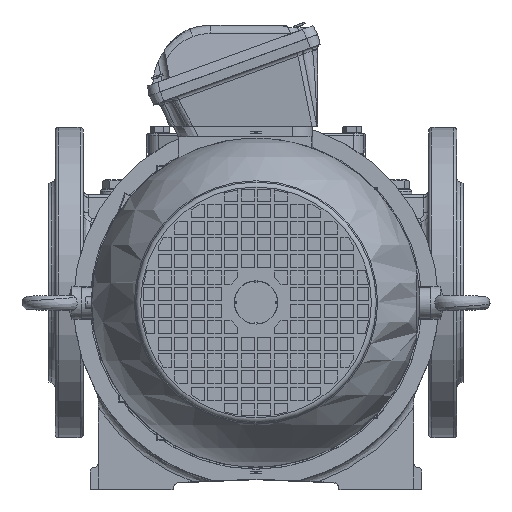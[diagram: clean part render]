
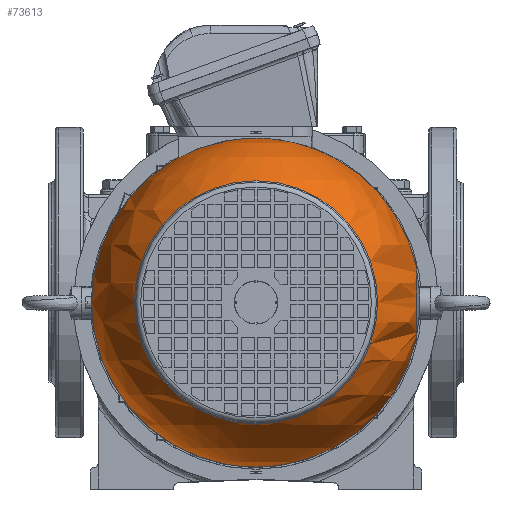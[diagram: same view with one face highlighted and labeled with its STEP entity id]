
A CAD part, top view. The second image highlights one B-rep face of the part: STEP entity #73613.
In plain terms, the highlighted spherical face has radius 99.054 mm.
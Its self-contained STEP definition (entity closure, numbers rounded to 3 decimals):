
#983=SPHERICAL_SURFACE('',#78412,99.054);
#8956=FACE_BOUND('',#15134,.T.);
#10728=FACE_OUTER_BOUND('',#15133,.T.);
#15133=EDGE_LOOP('',(#56707,#56708,#56709,#56710));
#15134=EDGE_LOOP('',(#56711,#56712));
#28968=CIRCLE('',#77082,99.05);
#28970=CIRCLE('',#77084,99.05);
#28971=CIRCLE('',#77085,99.05);
#29125=CIRCLE('',#77808,21.153);
#29146=CIRCLE('',#78410,73.309);
#29147=CIRCLE('',#78411,73.309);
#32205=VERTEX_POINT('',#114586);
#32206=VERTEX_POINT('',#114587);
#32209=VERTEX_POINT('',#114596);
#32210=VERTEX_POINT('',#114601);
#34023=VERTEX_POINT('',#121621);
#34024=VERTEX_POINT('',#121623);
#39375=EDGE_CURVE('',#32205,#32206,#28968,.T.);
#39379=EDGE_CURVE('',#32210,#32209,#28970,.T.);
#39380=EDGE_CURVE('',#32206,#32210,#28971,.T.);
#41029=EDGE_CURVE('',#32209,#32205,#29125,.T.);
#42188=EDGE_CURVE('',#34023,#34024,#29146,.T.);
#42189=EDGE_CURVE('',#34024,#34023,#29147,.T.);
#56707=ORIENTED_EDGE('',*,*,#39375,.T.);
#56708=ORIENTED_EDGE('',*,*,#39380,.T.);
#56709=ORIENTED_EDGE('',*,*,#39379,.T.);
#56710=ORIENTED_EDGE('',*,*,#41029,.T.);
#56711=ORIENTED_EDGE('',*,*,#42189,.F.);
#56712=ORIENTED_EDGE('',*,*,#42188,.F.);
#73613=ADVANCED_FACE('',(#10728,#8956),#983,.T.);
#77082=AXIS2_PLACEMENT_3D('',#114588,#84612,#84613);
#77084=AXIS2_PLACEMENT_3D('',#114602,#84616,#84617);
#77085=AXIS2_PLACEMENT_3D('',#114603,#84618,#84619);
#77808=AXIS2_PLACEMENT_3D('',#119256,#87162,#87163);
#78410=AXIS2_PLACEMENT_3D('',#121624,#89500,#89501);
#78411=AXIS2_PLACEMENT_3D('',#121625,#89502,#89503);
#78412=AXIS2_PLACEMENT_3D('',#121626,#89504,#89505);
#84612=DIRECTION('center_axis',(0.,0.,
1.));
#84613=DIRECTION('ref_axis',(0.,1.,0.));
#84616=DIRECTION('center_axis',(0.,0.,
1.));
#84617=DIRECTION('ref_axis',(0.,1.,0.));
#84618=DIRECTION('center_axis',(0.,0.,
1.));
#84619=DIRECTION('ref_axis',(0.,1.,0.));
#87162=DIRECTION('center_axis',(-1.,0.,0.));
#87163=DIRECTION('ref_axis',(0.,1.,0.));
#89500=DIRECTION('center_axis',(0.,0.,
1.));
#89501=DIRECTION('ref_axis',(0.,1.,0.));
#89502=DIRECTION('center_axis',(0.,0.,
1.));
#89503=DIRECTION('ref_axis',(0.,1.,0.));
#89504=DIRECTION('center_axis',(0.,-1.,0.));
#89505=DIRECTION('ref_axis',(-1.,0.,0.));
#114586=CARTESIAN_POINT('',(96.769,21.135,315.764));
#114587=CARTESIAN_POINT('',(0.,99.05,315.764));
#114588=CARTESIAN_POINT('Origin',(0.,0.,
315.764));
#114596=CARTESIAN_POINT('',(96.769,-21.135,315.764));
#114601=CARTESIAN_POINT('',(0.,-99.05,315.764));
#114602=CARTESIAN_POINT('Origin',(0.,0.,
315.764));
#114603=CARTESIAN_POINT('Origin',(0.,0.,
315.764));
#119256=CARTESIAN_POINT('Origin',(96.769,0.,
314.9));
#121621=CARTESIAN_POINT('',(0.,-73.309,381.515));
#121623=CARTESIAN_POINT('',(0.,73.309,381.515));
#121624=CARTESIAN_POINT('Origin',(0.,0.,
381.515));
#121625=CARTESIAN_POINT('Origin',(0.,0.,
381.515));
#121626=CARTESIAN_POINT('Origin',(0.,0.,
314.9));
